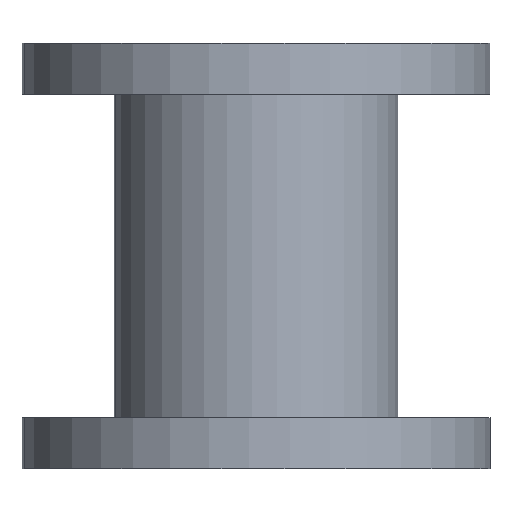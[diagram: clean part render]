
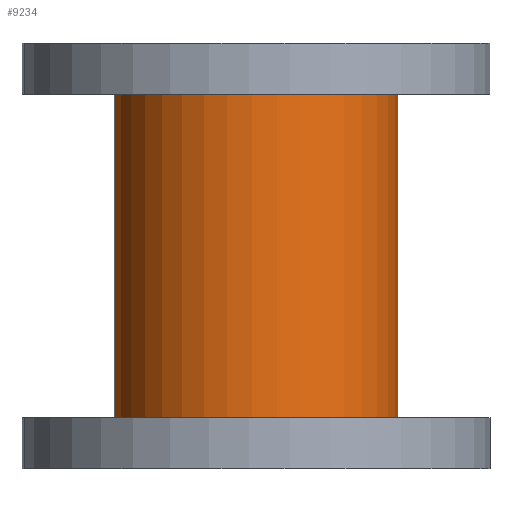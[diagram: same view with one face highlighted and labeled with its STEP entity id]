
A CAD part, front view. The second image highlights one B-rep face of the part: STEP entity #9234.
In plain terms, the highlighted cylindrical face has radius 50 mm (diameter 100 mm), a partial arc.
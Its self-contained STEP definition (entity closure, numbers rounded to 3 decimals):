
#33 = AXIS2_PLACEMENT_3D ( 'NONE', #4538, #8331, #2494 ) ;
#295 = CARTESIAN_POINT ( 'NONE',  ( 0., 0., -57. ) ) ;
#593 = VECTOR ( 'NONE', #7631, 1000. ) ;
#884 = CYLINDRICAL_SURFACE ( 'NONE', #33, 50. ) ;
#1201 = CARTESIAN_POINT ( 'NONE',  ( 50., 0., -57. ) ) ;
#1371 = LINE ( 'NONE', #5168, #6205 ) ;
#2494 = DIRECTION ( 'NONE',  ( -1., 0., 0. ) ) ;
#2944 = VERTEX_POINT ( 'NONE', #5086 ) ;
#3742 = CIRCLE ( 'NONE', #11283, 50. ) ;
#3902 = VERTEX_POINT ( 'NONE', #6281 ) ;
#3957 = DIRECTION ( 'NONE',  ( 0., 0., -1. ) ) ;
#4538 = CARTESIAN_POINT ( 'NONE',  ( 0., 0., 75. ) ) ;
#4620 = CARTESIAN_POINT ( 'NONE',  ( 0., 0., 57. ) ) ;
#5086 = CARTESIAN_POINT ( 'NONE',  ( 50., 0., 57. ) ) ;
#5168 = CARTESIAN_POINT ( 'NONE',  ( -50., 0., 75. ) ) ;
#5272 = EDGE_CURVE ( 'NONE', #8938, #7476, #3742, .T. ) ;
#6205 = VECTOR ( 'NONE', #7957, 1000. ) ;
#6281 = CARTESIAN_POINT ( 'NONE',  ( -50., 0., 57. ) ) ;
#6362 = CIRCLE ( 'NONE', #10315, 50. ) ;
#6369 = EDGE_CURVE ( 'NONE', #2944, #8938, #6708, .T. ) ;
#6708 = LINE ( 'NONE', #10489, #593 ) ;
#6767 = DIRECTION ( 'NONE',  ( -1., 0., 0. ) ) ;
#7019 = EDGE_CURVE ( 'NONE', #3902, #2944, #6362, .T. ) ;
#7089 = ORIENTED_EDGE ( 'NONE', *, *, #6369, .F. ) ;
#7213 = ORIENTED_EDGE ( 'NONE', *, *, #7019, .F. ) ;
#7472 = FACE_OUTER_BOUND ( 'NONE', #9903, .T. ) ;
#7476 = VERTEX_POINT ( 'NONE', #7880 ) ;
#7631 = DIRECTION ( 'NONE',  ( 0., 0., -1. ) ) ;
#7880 = CARTESIAN_POINT ( 'NONE',  ( -50., 0., -57. ) ) ;
#7957 = DIRECTION ( 'NONE',  ( 0., 0., -1. ) ) ;
#8331 = DIRECTION ( 'NONE',  ( 0., 0., -1. ) ) ;
#8938 = VERTEX_POINT ( 'NONE', #1201 ) ;
#9216 = DIRECTION ( 'NONE',  ( 0., 0., 1. ) ) ;
#9234 = ADVANCED_FACE ( 'NONE', ( #7472 ), #884, .T. ) ;
#9903 = EDGE_LOOP ( 'NONE', ( #7089, #7213, #10971, #9927 ) ) ;
#9927 = ORIENTED_EDGE ( 'NONE', *, *, #5272, .F. ) ;
#10315 = AXIS2_PLACEMENT_3D ( 'NONE', #4620, #9216, #10401 ) ;
#10401 = DIRECTION ( 'NONE',  ( 1., 0., 0. ) ) ;
#10489 = CARTESIAN_POINT ( 'NONE',  ( 50., 0., 75. ) ) ;
#10971 = ORIENTED_EDGE ( 'NONE', *, *, #11389, .T. ) ;
#11283 = AXIS2_PLACEMENT_3D ( 'NONE', #295, #3957, #6767 ) ;
#11389 = EDGE_CURVE ( 'NONE', #3902, #7476, #1371, .T. ) ;
